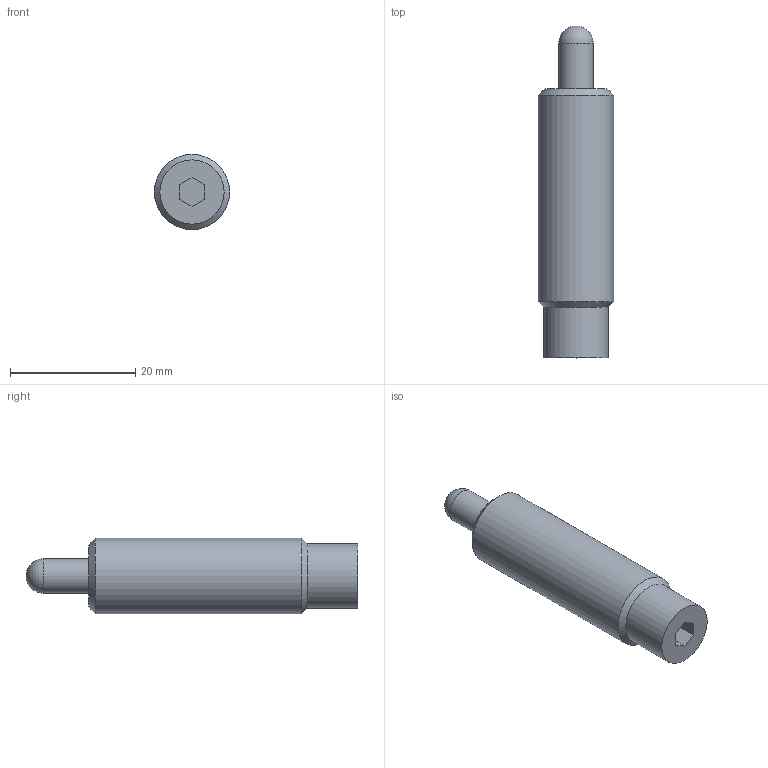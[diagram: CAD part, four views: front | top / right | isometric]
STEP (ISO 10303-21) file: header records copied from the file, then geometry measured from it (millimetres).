
FILE_DESCRIPTION( ( 'STEP AP203' ), '1' );
FILE_NAME( 'p:/temp/worker_13/temp/app_46_0201907041158431454338010e898ce_000000_00_00_000000/format_0/M314-04-002.stp', '2019-07-04T09:58:43', ( '' ), ( '' ), ' ', 'PARTsolutions', ' ' );
FILE_SCHEMA( ( 'CONFIG_CONTROL_DESIGN' ) );
Length unit declared in the file: millimetre
Products named in the file (1): _M314-04-002
Bounding box: 12 x 53 x 12 mm (x, y, z)
Volume: 4740.9 mm3; surface area: 1961.5 mm2
Topology: 1 solids, 1 shells, 15 faces, 33 edges, 21 vertices
Faces by surface type: plane 9, cylinder 3, cone 2, sphere 1
Full cylindrical faces by diameter (mm): 5.5 x1, 10.25 x1, 12 x1
Entity records: 410 total; most frequent: DIRECTION 64, CARTESIAN_POINT 61, ORIENTED_EDGE 50, EDGE_CURVE 25, AXIS2_PLACEMENT_3D 23, EDGE_LOOP 22, VERTEX_POINT 20, FACE_OUTER_BOUND 18
